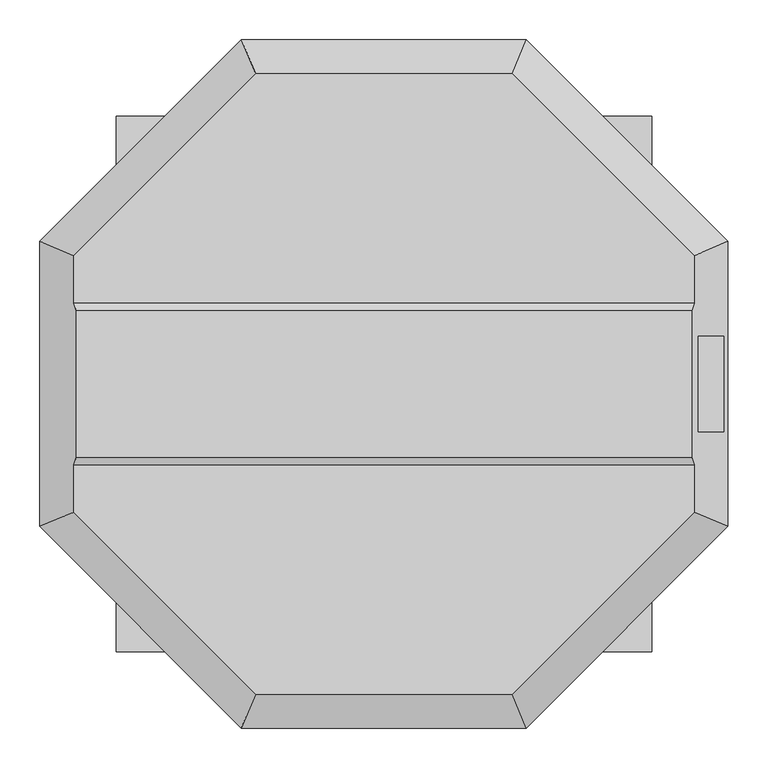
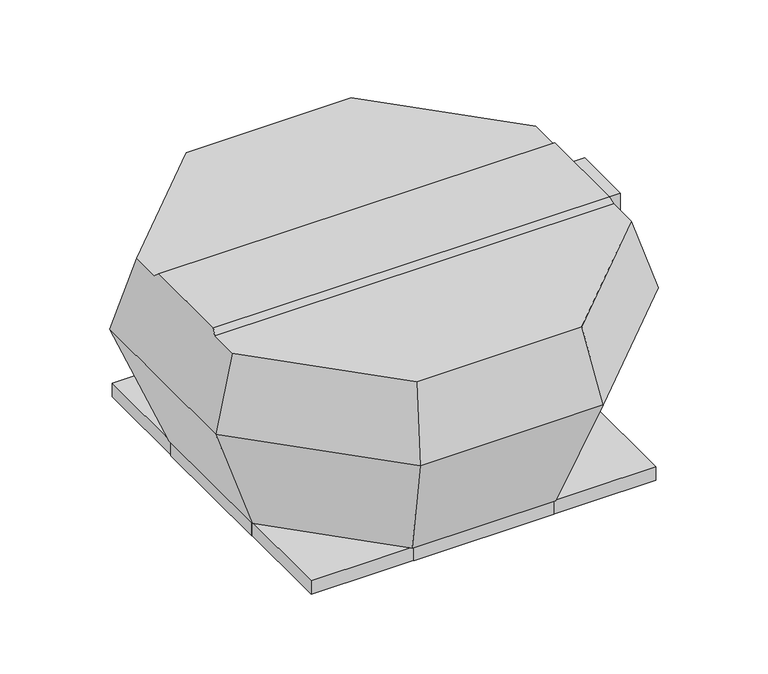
"""IFC4 building model written with IfcOpenShell, lengths in millimetres: unitary equipment geometry, VE-Wentylator-ParaForma-Harmann-VIVER_PS_EC-Wywiewny : 4-450/5500EC."""

import ifcopenshell
import ifcopenshell.guid

model = None  # the IFC model being written
_history = None  # IfcOwnerHistory: only IFC2X3 demands one
_inside = {}  # id of a spatial element -> (the spatial element, [elements in it])
_under = {}  # id of a project, library or spatial element -> (it, [spatial elements below it])
_declared = {}  # id of a project -> (the project, [libraries it declares])
_typed = {}  # id of a type object -> (the type object, [elements of that type])
_made_of = {}  # id of a material, layer set ... -> (it, [elements and type objects made of it])


def new_model(schema):
    """Start an empty IFC model of exactly this schema.

    Asked for "IFC4X3", IfcOpenShell would pick the latest addendum, in which some entities
    have other attributes; the version numbers below select the first issue.
    IFC2X3 requires an IfcOwnerHistory on every rooted entity: one is made here for all.
    """
    global model, _history
    if schema == "IFC4X3":
        model = ifcopenshell.file(schema_version=(4, 3, 0, 0))
    else:
        model = ifcopenshell.file(schema=schema)
    _inside.clear()
    _under.clear()
    _declared.clear()
    _typed.clear()
    _made_of.clear()
    _history = None
    if model.schema == "IFC2X3":
        org = make("IfcOrganization", Name="unknown")
        user = make(
            "IfcPersonAndOrganization",
            ThePerson=make("IfcPerson", FamilyName="unknown"),
            TheOrganization=org,
        )
        app = make(
            "IfcApplication",
            ApplicationDeveloper=org,
            Version="unknown",
            ApplicationFullName="unknown",
            ApplicationIdentifier="unknown",
        )
        _history = make(
            "IfcOwnerHistory",
            OwningUser=user,
            OwningApplication=app,
            ChangeAction="ADDED",
            CreationDate=0,
        )
    return model


def make(cls, **values):
    """One entity of the class cls with the attributes given. An attribute that is None is left unset."""
    return model.create_entity(
        cls, **{name: value for name, value in values.items() if value is not None}
    )


def rooted(cls, **values):
    """An entity with a GlobalId (a new one), such as an element, a storey or a relation."""
    return make(cls, GlobalId=ifcopenshell.guid.new(), OwnerHistory=_history, **values)


def si_unit(unit_type, name, prefix=None):
    """IfcSIUnit, for example si_unit("LENGTHUNIT", "METRE", prefix="MILLI")."""
    return make("IfcSIUnit", UnitType=unit_type, Prefix=prefix, Name=name)


def assignment(units):
    """IfcUnitAssignment: the units of a project."""
    return None if units is None else make("IfcUnitAssignment", Units=units)


def point(xyz):
    """IfcCartesianPoint."""
    return None if xyz is None else make("IfcCartesianPoint", Coordinates=xyz)


def direction(xyz):
    """IfcDirection."""
    return None if xyz is None else make("IfcDirection", DirectionRatios=xyz)


def frame(location, z_axis=None, x_axis=None):
    """IfcAxis2Placement3D, a coordinate frame: its origin and axes. An axis left out is left unset."""
    return make(
        "IfcAxis2Placement3D",
        Location=point(location),
        Axis=direction(z_axis),
        RefDirection=direction(x_axis),
    )


def frame_2d(location, x_axis=None):
    """IfcAxis2Placement2D, a coordinate frame in the plane: its origin and x axis."""
    return make(
        "IfcAxis2Placement2D", Location=point(location), RefDirection=direction(x_axis)
    )


def origin():
    """The frame at (0, 0, 0) with its axes left unset."""
    return frame((0.0, 0.0, 0.0))


def place(relative_to, where):
    """IfcLocalPlacement: puts the frame where relative to a parent placement (None: the world)."""
    return make(
        "IfcLocalPlacement", PlacementRelTo=relative_to, RelativePlacement=where
    )


def context(
    kind, dimensions, precision=None, world=None, true_north=None, identifier=None
):
    """IfcGeometricRepresentationContext, for example the 3D "Model" context."""
    return make(
        "IfcGeometricRepresentationContext",
        ContextIdentifier=identifier,
        ContextType=kind,
        CoordinateSpaceDimension=dimensions,
        Precision=precision,
        WorldCoordinateSystem=world,
        TrueNorth=true_north,
    )


def project(units=None, contexts=None):
    """IfcProject with its units and contexts."""
    return rooted(
        "IfcProject",
        Name="project",
        RepresentationContexts=contexts,
        UnitsInContext=assignment(units),
    )


def spatial(cls, under=None, at=None, **own):
    """A site, building, storey or space (cls), placed at a placement, below another one or the project."""
    s = rooted(cls, ObjectPlacement=at, **own)
    if under is not None:
        _under.setdefault(under.id(), (under, []))[1].append(s)
    return s


def polyline(points):
    """IfcPolyline through the points."""
    return make("IfcPolyline", Points=[point(p) for p in points])


def circle_curve(where, radius):
    """IfcCircle in the frame where."""
    return make("IfcCircle", Position=where, Radius=radius)


def ellipse_curve(where, semi_axis1, semi_axis2):
    """IfcEllipse in the frame where."""
    return make(
        "IfcEllipse", Position=where, SemiAxis1=semi_axis1, SemiAxis2=semi_axis2
    )


def trimmed(basis, trim1, trim2, sense, master):
    """IfcTrimmedCurve: the piece of a basis curve between two trims."""
    return make(
        "IfcTrimmedCurve",
        BasisCurve=basis,
        Trim1=trim1,
        Trim2=trim2,
        SenseAgreement=sense,
        MasterRepresentation=master,
    )


def segment(curve, same_sense, transition):
    """IfcCompositeCurveSegment."""
    return make(
        "IfcCompositeCurveSegment",
        Transition=transition,
        SameSense=same_sense,
        ParentCurve=curve,
    )


def composite_curve(segments, self_intersect=None):
    """IfcCompositeCurve: segments joined end to end."""
    return make("IfcCompositeCurve", Segments=segments, SelfIntersect=self_intersect)


def outline(outer, holes=None, kind="AREA"):
    """IfcArbitraryClosedProfileDef: a profile drawn as a closed curve; with holes, ...WithVoids."""
    if holes is None:
        return make("IfcArbitraryClosedProfileDef", ProfileType=kind, OuterCurve=outer)
    return make(
        "IfcArbitraryProfileDefWithVoids",
        ProfileType=kind,
        OuterCurve=outer,
        InnerCurves=holes,
    )


def extrude(swept, where, along, depth):
    """IfcExtrudedAreaSolid: the profile swept, set in the frame where, extruded along a direction by depth."""
    return make(
        "IfcExtrudedAreaSolid",
        SweptArea=swept,
        Position=where,
        ExtrudedDirection=direction(along),
        Depth=depth,
    )


def faces_of(points, faces, orient=None, outer=None):
    """IfcFace entities. A face is a list of loops; a loop is a list of indices into points, from 0.

    orient and outer hold one flag for each loop. By default every Orientation is true, the
    first loop of a face is its IfcFaceOuterBound and the others are IfcFaceBound.
    """
    made = []
    for i, loops in enumerate(faces):
        bounds = []
        for j, loop in enumerate(loops):
            is_outer = j == 0 if outer is None else outer[i][j]
            bounds.append(
                make(
                    "IfcFaceOuterBound" if is_outer else "IfcFaceBound",
                    Bound=make("IfcPolyLoop", Polygon=[points[k] for k in loop]),
                    Orientation=True if orient is None else orient[i][j],
                )
            )
        made.append(make("IfcFace", Bounds=bounds))
    return made


def faceted_brep(points, faces, orient=None, outer=None, voids=None):
    """IfcFacetedBrep: a solid bounded by flat faces; with voids (closed shells), ...WithVoids."""
    shared = [point(p) for p in points]
    hull = make("IfcClosedShell", CfsFaces=faces_of(shared, faces, orient, outer))
    if voids is None:
        return make("IfcFacetedBrep", Outer=hull)
    return make(
        "IfcFacetedBrepWithVoids",
        Outer=hull,
        Voids=[
            make(cls, CfsFaces=faces_of(shared, fs, o, b)) for cls, fs, o, b in voids
        ],
    )


def shape(context_of_items, identifier, shape_type, items):
    """IfcShapeRepresentation: the items that make up one representation, for example the "Body"."""
    return make(
        "IfcShapeRepresentation",
        ContextOfItems=context_of_items,
        RepresentationIdentifier=identifier,
        RepresentationType=shape_type,
        Items=items,
    )


def source(mapping_origin, context_of_items, identifier, shape_type, items):
    """IfcRepresentationMap: a shape defined once, which mapped items show again and again."""
    return make(
        "IfcRepresentationMap",
        MappingOrigin=mapping_origin,
        MappedRepresentation=shape(context_of_items, identifier, shape_type, items),
    )


def transform(
    local_origin,
    x_axis=None,
    y_axis=None,
    z_axis=None,
    scale=None,
    scale2=None,
    scale3=None,
    uniform=True,
):
    """IfcCartesianTransformationOperator3D, or its non-uniform kind. x_axis, y_axis, z_axis: its Axis1, 2, 3."""
    if uniform:
        return make(
            "IfcCartesianTransformationOperator3D",
            Axis1=direction(x_axis),
            Axis2=direction(y_axis),
            LocalOrigin=point(local_origin),
            Scale=scale,
            Axis3=direction(z_axis),
        )
    return make(
        "IfcCartesianTransformationOperator3DnonUniform",
        Axis1=direction(x_axis),
        Axis2=direction(y_axis),
        LocalOrigin=point(local_origin),
        Scale=scale,
        Axis3=direction(z_axis),
        Scale2=scale2,
        Scale3=scale3,
    )


def mapped(mapping_source, mapping_target):
    """IfcMappedItem: shows the shape of a source again, moved by a transform."""
    return make(
        "IfcMappedItem", MappingSource=mapping_source, MappingTarget=mapping_target
    )


def made_of(thing, what):
    """Note that an element or type object is made of a material, layer set ...; save() writes the relation."""
    if what is not None:
        _made_of.setdefault(what.id(), (what, []))[1].append(thing)
    return thing


def element(
    cls,
    number,
    at=None,
    inside=None,
    cuts=None,
    type_object=None,
    material=None,
    context=None,
    identifier="Body",
    shape_type=None,
    held_by="IfcProductDefinitionShape",
    body=None,
    shapes=None,
    **own,
):
    """One element of the class cls, such as IfcWall. Its Tag is "e" and its number.

    at: its placement. inside: the storey or other place that contains it. cuts: it is an
    opening in that element (IfcRelVoidsElement). A single representation is given by context,
    identifier, shape_type and body (its items); several are given by shapes. held_by: the class
    of the entity that holds the representations. save() writes the other relations.
    """
    e = rooted(cls, Tag="e%d" % number, ObjectPlacement=at, **own)
    if body is not None:
        shapes = [shape(context, identifier, shape_type, body)]
    if shapes is not None:
        e.Representation = make(held_by, Representations=shapes)
    if inside is not None:
        _inside.setdefault(inside.id(), (inside, []))[1].append(e)
    if cuts is not None:
        rooted(
            "IfcRelVoidsElement", RelatingBuildingElement=cuts, RelatedOpeningElement=e
        )
    if type_object is not None:
        _typed.setdefault(type_object.id(), (type_object, []))[1].append(e)
    return made_of(e, material)


def aggregate(whole, parts):
    """IfcRelAggregates: a whole, such as a stair, and the parts it consists of."""
    return rooted("IfcRelAggregates", RelatingObject=whole, RelatedObjects=parts)


def save(model, path):
    """Write the relations noted so far, then the file.

    IfcRelAggregates (storeys below a building ...), IfcRelContainedInSpatialStructure (elements
    in a storey), IfcRelDefinesByType, IfcRelAssociatesMaterial and IfcRelDeclares: one each for
    every whole, place, type object, material and project.
    """
    for whole, parts in _under.values():
        aggregate(whole, parts)
    for where, things in _inside.values():
        rooted(
            "IfcRelContainedInSpatialStructure",
            RelatedElements=things,
            RelatingStructure=where,
        )
    for kind, things in _typed.values():
        rooted("IfcRelDefinesByType", RelatedObjects=things, RelatingType=kind)
    for what, things in _made_of.values():
        rooted("IfcRelAssociatesMaterial", RelatedObjects=things, RelatingMaterial=what)
    for by, libraries in _declared.values():
        rooted("IfcRelDeclares", RelatingContext=by, RelatedDefinitions=libraries)
    model.write(path)


def plane_surface(at):
    """IfcPlane: the flat surface through the origin of the frame at, square to its z axis."""
    return make("IfcPlane", Position=at)


def revolved_surface(curve, axis_point, axis_direction):
    """IfcSurfaceOfRevolution: the curve turned about the line through axis_point along axis_direction."""
    return make(
        "IfcSurfaceOfRevolution",
        SweptCurve=make("IfcArbitraryOpenProfileDef", ProfileType="CURVE", Curve=curve),
        AxisPosition=make("IfcAxis1Placement", Location=point(axis_point), Axis=direction(axis_direction)),
    )


def advanced_brep(points, edges, surfaces, faces):
    """IfcAdvancedBrep: a solid bounded by faces that lie on surfaces and meet in shared edges.

    An edge is (start, end): straight between two places in points (the first is 0);
    or (start, end, curve); or (start, end, curve, False) where it runs against its curve.
    A face is (place in surfaces, loops), or (place, loops, False) where it looks against
    its surface's normal. A loop lists edges by number (the first is 1), with a minus sign
    where the edge is run from its end to its start. The first loop is the outer one.
    """
    corners = [point(p) for p in points]
    vertices = [make("IfcVertexPoint", VertexGeometry=c) for c in corners]
    made = []
    for start, end, *more in edges:
        made.append(
            make(
                "IfcEdgeCurve",
                EdgeStart=vertices[start],
                EdgeEnd=vertices[end],
                EdgeGeometry=more[0] if more else make("IfcPolyline", Points=[corners[start], corners[end]]),
                SameSense=more[1] if len(more) > 1 else True,
            )
        )
    hull = []
    for where, loops, *sense in faces:
        bounds = []
        for j, loop in enumerate(loops):
            ring = [make("IfcOrientedEdge", EdgeElement=made[abs(k) - 1], Orientation=k > 0) for k in loop]
            bounds.append(
                make(
                    "IfcFaceOuterBound" if j == 0 else "IfcFaceBound",
                    Bound=make("IfcEdgeLoop", EdgeList=ring),
                    Orientation=True,
                )
            )
        hull.append(make("IfcAdvancedFace", Bounds=bounds, FaceSurface=surfaces[where], SameSense=sense[0] if sense else True))
    return make("IfcAdvancedBrep", Outer=make("IfcClosedShell", CfsFaces=hull))


def unitary_equipment_78778f7f(model_context):
    return source(origin(), model_context, "Body", "SolidModel", [
        advanced_brep(
        [(385.1033363, -91.75, 391.6), (385.1033363, 91.75, 391.6), (-385.1033363, 91.75, 391.6), (-385.1033363, -91.75, 391.6), (387.9641195, 101.2, 382.1), (-387.9641195, 101.2, 382.1), (387.9641195, -101.2, 382.1), (-387.9641195, -101.2, 382.1), (160.7, -387.9641195, 382.1), (387.9641195, -160.7, 382.1), (-387.9641195, -160.7, 382.1), (-160.7, -387.9641195, 382.1), (387.9641195, 160.7, 382.1), (160.7, 387.9641195, 382.1), (-160.7, 387.9641195, 382.1), (-387.9641195, 160.7, 382.1), (178.3, -430.4542782, 241.0), (430.4542782, -178.3, 241.0), (430.4542782, 178.3, 241.0), (425.3, -60.0, 258.1161669), (392.9930752, -60.0, 365.4), (392.9930752, 60.0, 365.4), (425.3, 60.0, 258.1161669), (418.4691023, 0.0, 280.8), (399.7987278, 0.0, 342.8), (178.3, 430.4542782, 241.0), (-178.3, 430.4542782, 241.0), (-430.4542782, 178.3, 241.0), (-430.4542782, -178.3, 241.0), (-178.3, -430.4542782, 241.0), (425.3, -60.0, 365.4), (425.3, 60.0, 365.4), (425.3, 0.0, 342.8), (425.3, 0.0, 280.8), (139.7, -337.2656347, 1.5), (-139.7, -337.2656347, 1.5), (-337.2656347, -139.7, 1.5), (-337.2656347, 139.7, 1.5), (-139.7, 337.2656347, 1.5), (139.7, 337.2656347, 1.5), (337.2656347, 139.7, 1.5), (337.2656347, -139.7, 1.5)],
        [
            (0, 1),
            (1, 2),
            (2, 3),
            (3, 0),
            (1, 4),
            (4, 5),
            (5, 2),
            (6, 0),
            (3, 7),
            (7, 6),
            (8, 9),
            (9, 6),
            (7, 10),
            (10, 11),
            (11, 8),
            (12, 13),
            (13, 14),
            (14, 15),
            (15, 5),
            (4, 12),
            (8, 16),
            (16, 17),
            (17, 9),
            (17, 18),
            (18, 12),
            (19, 20),
            (20, 21),
            (21, 22),
            (22, 19),
            (23, 24, ellipse_curve(frame((409.1339151, 0.0, 311.8), z_axis=(0.9575266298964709, 0.0, 0.28834485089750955), x_axis=(-0.2883448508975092, 0.0, 0.9575266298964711)), 32.3750787, 31.0)),
            (24, 23, ellipse_curve(frame((409.1339151, 0.0, 311.8), z_axis=(0.9575266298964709, 0.0, 0.28834485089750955), x_axis=(-0.2883448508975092, 0.0, 0.9575266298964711)), 32.3750787, 31.0)),
            (18, 25),
            (25, 13),
            (25, 26),
            (26, 14),
            (26, 27),
            (27, 15),
            (27, 28),
            (28, 10),
            (28, 29),
            (29, 11),
            (29, 16),
            (19, 30),
            (30, 20),
            (31, 22),
            (21, 31),
            (31, 30),
            (32, 33, circle_curve(frame((425.3, 0.0, 311.8), z_axis=(-1.0, 0.0, 0.0), x_axis=(0.0, 0.0, -1.0)), 31.0)),
            (33, 32, circle_curve(frame((425.3, 0.0, 311.8), z_axis=(-1.0, 0.0, 0.0), x_axis=(0.0, 0.0, -1.0)), 31.0)),
            (34, 35),
            (35, 36),
            (36, 37),
            (37, 38),
            (38, 39),
            (39, 40),
            (40, 41),
            (41, 34),
            (41, 17),
            (16, 34),
            (40, 18),
            (39, 25),
            (38, 26),
            (37, 27),
            (36, 28),
            (35, 29),
            (32, 24),
            (23, 33),
        ],
        [
            plane_surface(frame((0.0, 0.0, 391.6), z_axis=(0.0, 0.0, 1.0), x_axis=(0.0, 1.0, 0.0))),
            plane_surface(frame((0.0, 101.2, 382.1), z_axis=(0.0, 0.7089700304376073, 0.7052386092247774), x_axis=(-1.0, 0.0, 0.0))),
            plane_surface(frame((0.0, -101.2, 382.1), z_axis=(0.0, -0.7089700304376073, 0.7052386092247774), x_axis=(1.0, 0.0, 0.0))),
            plane_surface(frame((0.0, 0.0, 382.1), z_axis=(0.0, 0.0, 1.0000000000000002), x_axis=(0.7071067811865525, 0.7071067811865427, 0.0))),
            plane_surface(frame((304.3771391, -304.3771391, 241.0), z_axis=(0.6770735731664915, -0.6770735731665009, 0.2883448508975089), x_axis=(0.7071067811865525, 0.7071067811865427, 0.0))),
            plane_surface(frame((430.4542782, 0.0, 241.0), z_axis=(0.9575266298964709, 0.0, 0.28834485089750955), x_axis=(0.0, 1.0, 0.0))),
            plane_surface(frame((304.3771391, 304.3771391, 241.0), z_axis=(0.6770735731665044, 0.6770735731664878, 0.28834485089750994), x_axis=(-0.7071067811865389, 0.7071067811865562, 0.0))),
            plane_surface(frame((0.0, 430.4542782, 241.0), z_axis=(0.0, 0.9575266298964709, 0.28834485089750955), x_axis=(-1.0, 0.0, 0.0))),
            plane_surface(frame((-304.3771391, 304.3771391, 241.0), z_axis=(-0.6770735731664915, 0.6770735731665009, 0.28834485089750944), x_axis=(-0.7071067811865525, -0.7071067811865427, 0.0))),
            plane_surface(frame((-430.4542782, 0.0, 241.0), z_axis=(-0.9575266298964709, 0.0, 0.28834485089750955), x_axis=(0.0, -1.0, 0.0))),
            plane_surface(frame((-304.3771391, -304.3771391, 241.0), z_axis=(-0.6770735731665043, -0.6770735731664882, 0.2883448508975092), x_axis=(0.7071067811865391, -0.707106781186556, 0.0))),
            plane_surface(frame((0.0, -430.4542782, 241.0), z_axis=(0.0, -0.9575266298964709, 0.28834485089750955), x_axis=(1.0, 0.0, 0.0))),
            plane_surface(frame((0.0, -60.0, 0.0), z_axis=(0.0, -1.0, 0.0), x_axis=(0.0, 0.0, 1.0))),
            plane_surface(frame((0.0, 60.0, 0.0), z_axis=(0.0, 1.0, 0.0), x_axis=(0.0, 0.0, 1.0))),
            plane_surface(frame((425.3, -60.0, 278.1), z_axis=(1.0, 0.0, 0.0), x_axis=(0.0, 1.0, 0.0))),
            plane_surface(frame((425.3, -60.0, 365.4), z_axis=(0.0, 0.0, 1.0), x_axis=(0.0, 1.0, 0.0))),
            plane_surface(frame((0.0, 0.0, 1.5), z_axis=(0.0, 0.0, -1.0), x_axis=(0.7071067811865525, 0.7071067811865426, 0.0))),
            plane_surface(frame((238.4828173, -238.4828173, 1.5), z_axis=(0.6589805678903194, -0.6589805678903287, -0.3626144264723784), x_axis=(0.7071067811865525, 0.7071067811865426, 0.0))),
            plane_surface(frame((337.2656347, 0.0, 1.5), z_axis=(0.9319392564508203, 0.0, -0.36261442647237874), x_axis=(0.0, 1.0, 0.0))),
            plane_surface(frame((238.4828173, 238.4828173, 1.5), z_axis=(0.6589805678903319, 0.6589805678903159, -0.3626144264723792), x_axis=(-0.7071067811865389, 0.7071067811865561, 0.0))),
            plane_surface(frame((0.0, 337.2656347, 1.5), z_axis=(0.0, 0.9319392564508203, -0.36261442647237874), x_axis=(-1.0, 0.0, 0.0))),
            plane_surface(frame((-238.4828173, 238.4828173, 1.5), z_axis=(-0.6589805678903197, 0.6589805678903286, -0.3626144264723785), x_axis=(-0.7071067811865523, -0.7071067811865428, 0.0))),
            plane_surface(frame((-337.2656347, 0.0, 1.5), z_axis=(-0.9319392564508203, 0.0, -0.36261442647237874), x_axis=(0.0, -1.0, 0.0))),
            plane_surface(frame((-238.4828173, -238.4828173, 1.5), z_axis=(-0.6589805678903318, -0.6589805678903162, -0.3626144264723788), x_axis=(0.7071067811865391, -0.7071067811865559, 0.0))),
            plane_surface(frame((0.0, -337.2656347, 1.5), z_axis=(0.0, -0.9319392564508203, -0.36261442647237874), x_axis=(1.0, 0.0, 0.0))),
            revolved_surface(polyline([(399.7987278, 0.0, 280.8), (425.3, 0.0, 280.8)]), (0.0, 0.0, 311.8), (-1.0, 0.0, 0.0)),
        ],
        [
            (0, [[1, 2, 3, 4]]),
            (1, [[5, 6, 7, -2]]),
            (2, [[8, -4, 9, 10]]),
            (3, [[11, 12, -10, 13, 14, 15]]),
            (3, [[16, 17, 18, 19, -6, 20]]),
            (4, [[-11, 21, 22, 23]]),
            (5, [[-23, 24, 25, -20, -5, -1, -8, -12], [26, 27, 28, 29]]),
            (5, [[30, 31]]),
            (6, [[-16, -25, 32, 33]]),
            (7, [[-17, -33, 34, 35]]),
            (8, [[-18, -35, 36, 37]]),
            (9, [[-37, 38, 39, -13, -9, -3, -7, -19]]),
            (10, [[-14, -39, 40, 41]]),
            (11, [[-15, -41, 42, -21]]),
            (12, [[43, 44, -26]]),
            (13, [[45, -28, 46]]),
            (14, [[47, -43, -29, -45], [48, 49]]),
            (15, [[-47, -46, -27, -44]]),
            (16, [[50, 51, 52, 53, 54, 55, 56, 57]]),
            (17, [[-57, 58, -22, 59]]),
            (18, [[-56, 60, -24, -58]]),
            (19, [[-55, 61, -32, -60]]),
            (20, [[-54, 62, -34, -61]]),
            (21, [[-53, 63, -36, -62]]),
            (22, [[-52, 64, -38, -63]]),
            (23, [[-51, 65, -40, -64]]),
            (24, [[-50, -59, -42, -65]]),
            (25, [[-48, 66, -30, 67]]),
            (25, [[-49, -67, -31, -66]]),
        ],
    ),
        faceted_brep([(333.4, 333.4, -26.5), (333.4, 333.4, 0.0), (-333.4, 333.4, 0.0), (-333.4, 333.4, -26.5), (334.9, 334.9, 1.5), (334.9, 334.9, -26.5), (-334.9, 334.9, -26.5), (-334.9, 334.9, 1.5), (-333.4, -333.4, 0.0), (-333.4, -333.4, -26.5), (-334.9, -334.9, -26.5), (-334.9, -334.9, 1.5), (333.4, -333.4, 0.0), (333.4, -333.4, -26.5), (334.9, -334.9, -26.5), (334.9, -334.9, 1.5)], [[[0, 1, 2, 3]], [[4, 5, 6, 7]], [[3, 2, 8, 9]], [[7, 6, 10, 11]], [[9, 8, 12, 13]], [[11, 10, 14, 15]], [[13, 12, 1, 0]], [[5, 14, 10, 6], [3, 9, 13, 0]], [[15, 14, 5, 4]], [[7, 11, 15, 4]], [[1, 12, 8, 2]]]),
        extrude(outline(composite_curve([segment(trimmed(circle_curve(frame_2d((0.0, 311.8)), 31.0), [point((0.0, 342.8))], [point((0.0, 280.8))], False, "CARTESIAN"), True, "CONTINUOUS"), segment(trimmed(circle_curve(frame_2d((0.0, 311.8)), 31.0), [point((0.0, 280.8))], [point((0.0, 342.8))], False, "CARTESIAN"), True, "CONTINUOUS")], self_intersect=False)), frame((415.3, 0.0, 0.0), z_axis=(1.0, 0.0, 0.0), x_axis=(0.0, 1.0, 0.0)), (0.0, 0.0, 1.0), 10.0),
        faceted_brep([(-334.9, -136.1, -26.6), (-335.9, -136.1, -26.6), (-335.9, 136.1, -26.6), (-334.9, 136.1, -26.6), (-334.9, -136.1, 1.5), (-334.9, 136.1, 1.5), (-335.9, 136.1, 1.5), (-335.9, -136.1, 1.5)], [[[0, 1, 2, 3]], [[4, 5, 6, 7]], [[1, 0, 4, 7]], [[2, 1, 7, 6]], [[3, 2, 6, 5]], [[0, 3, 5, 4]]]),
        faceted_brep([(335.9, -136.1, -26.6), (334.9, -136.1, -26.6), (334.9, 136.1, -26.6), (335.9, 136.1, -26.6), (335.9, 136.1, 1.5), (334.9, 136.1, 1.5), (334.9, -136.1, 1.5), (335.9, -136.1, 1.5), (335.9, -94.8, 1.5), (360.1, -78.2, 1.5), (360.1, 78.2, 1.5), (335.9, 94.8, 1.5), (335.9, 94.8, 0.0), (335.9, -94.8, 0.0), (360.1, 78.2, 0.0), (357.0, 78.2, 0.0), (357.0, -78.2, 0.0), (360.1, -78.2, 0.0), (360.1, -78.2, -21.0), (360.1, 78.2, -21.0), (357.0, -78.2, -21.0), (357.0, 78.2, -21.0)], [[[0, 1, 2, 3]], [[4, 5, 6, 7, 8, 9, 10, 11]], [[1, 0, 7, 6]], [[2, 1, 6, 5]], [[3, 2, 5, 4]], [[0, 3, 4, 11, 12, 13, 8, 7]], [[12, 14, 15, 16, 17, 13]], [[14, 12, 11, 10]], [[10, 9, 17, 18, 19, 14]], [[13, 17, 9, 8]], [[20, 16, 15, 21]], [[16, 20, 18, 17]], [[21, 15, 14, 19]], [[20, 21, 19, 18]]]),
        faceted_brep([(136.1, 334.9, -26.6), (-136.1, 334.9, -26.6), (-136.1, 335.9, -26.6), (136.1, 335.9, -26.6), (136.1, 334.9, 1.5), (136.1, 335.9, 1.5), (-136.1, 335.9, 1.5), (-136.1, 334.9, 1.5)], [[[0, 1, 2, 3]], [[4, 5, 6, 7]], [[1, 0, 4, 7]], [[2, 1, 7, 6]], [[3, 2, 6, 5]], [[0, 3, 5, 4]]]),
        faceted_brep([(136.1, -335.9, -26.6), (-136.1, -335.9, -26.6), (-136.1, -334.9, -26.6), (136.1, -334.9, -26.6), (136.1, -335.9, 1.5), (136.1, -334.9, 1.5), (-136.1, -334.9, 1.5), (-136.1, -335.9, 1.5)], [[[0, 1, 2, 3]], [[4, 5, 6, 7]], [[1, 0, 4, 7]], [[2, 1, 7, 6]], [[3, 2, 6, 5]], [[0, 3, 5, 4]]]),
    ])


if __name__ == "__main__":
    model = new_model("IFC4")
    model_context = context("Model", 3, world=origin())
    ifc_project = project(units=[si_unit("LENGTHUNIT", "METRE", prefix="MILLI")], contexts=[model_context])
    site = spatial("IfcSite", under=ifc_project)
    building = spatial("IfcBuilding", under=site)
    placement = place(None, origin())
    unitary_equipment_shape = unitary_equipment_78778f7f(model_context)
    element("IfcUnitaryEquipment", 1, ObjectType="VE-Wentylator-ParaForma-Harmann-VIVER_PS_EC-Wywiewny : 4-450/5500EC", at=placement, inside=building, context=model_context, shape_type="MappedRepresentation", body=[
        mapped(unitary_equipment_shape, transform((0.0, 0.0, 0.0), x_axis=(1.0, 0.0, 0.0), y_axis=(0.0, 1.0, 0.0), z_axis=(0.0, 0.0, 1.0))),
    ])
    save(model, "model.ifc")
